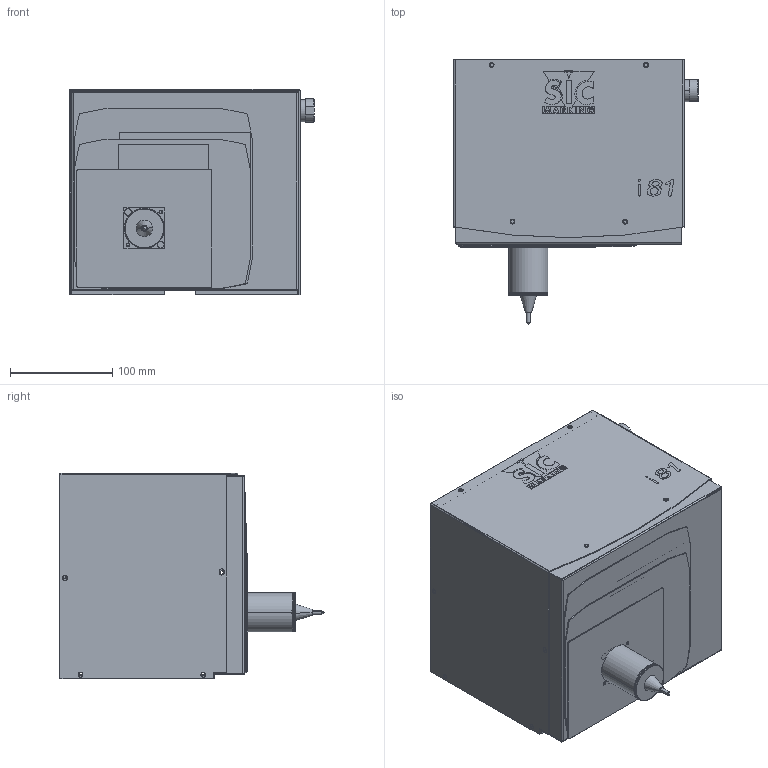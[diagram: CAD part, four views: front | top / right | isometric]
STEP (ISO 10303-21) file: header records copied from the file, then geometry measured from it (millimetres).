
FILE_DESCRIPTION (( 'STEP AP214' ), '1' );
FILE_NAME ('i81.STEP', '2006-03-07T15:43:32', ( 'Utilisateur' ), ( '' ), 'SwSTEP 2.0', 'SolidWorks 2005204', '' );
FILE_SCHEMA (( 'AUTOMOTIVE_DESIGN' ));
Length unit declared in the file: millimetre
Products named in the file (1): i81
Bounding box: 239 x 257.9 x 201.1 mm (x, y, z)
Surface area: 520084.7 mm2 (no closed solid volume)
Topology: 0 solids, 26 shells, 552 faces, 2988 edges, 2348 vertices
Faces by surface type: cylinder 293, plane 227, bspline 21, cone 7, torus 4
Entity records: 41489 total; most frequent: CARTESIAN_POINT 11408, DIRECTION 5614, ORIENTED_EDGE 4099, EDGE_CURVE 2986, VERTEX_POINT 2348, AXIS2_PLACEMENT_3D 2171, CIRCLE 1639, VECTOR 1272
